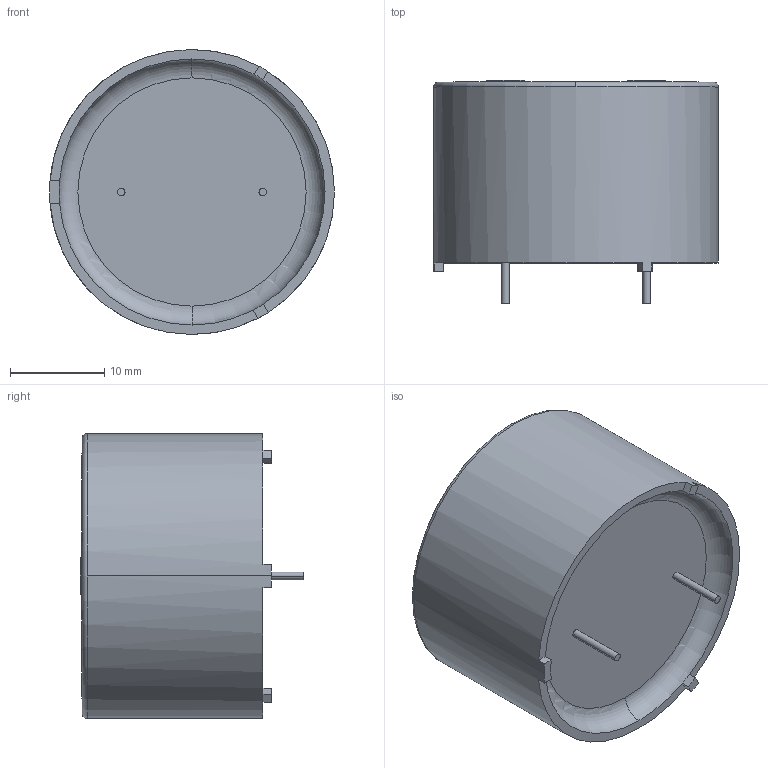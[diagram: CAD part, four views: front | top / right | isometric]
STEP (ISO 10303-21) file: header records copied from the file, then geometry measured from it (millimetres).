
FILE_DESCRIPTION(('STEP AP242'),'1');
FILE_NAME('ai-3035-tt-12v-r.stp','2022-02-22T09:53:46',('TraceParts'),('TraceParts S.A.'),'Spatial InterOp 3D',' ',' ');
FILE_SCHEMA(('AP242_MANAGED_MODEL_BASED_3D_ENGINEERING_MIM_LF {1 0 10303 442 1 1 4}'));
Length unit declared in the file: millimetre
Products named in the file (1): ai-3035-tt-12v-r
Bounding box: 30.2 x 23.65 x 30.2 mm (x, y, z)
Volume: 10500.6 mm3; surface area: 4887.1 mm2
Topology: 1 solids, 1 shells, 58 faces, 143 edges, 94 vertices
Faces by surface type: plane 37, cylinder 17, torus 4
Entity records: 2176 total; most frequent: DIRECTION 318, CARTESIAN_POINT 296, ORIENTED_EDGE 286, EDGE_CURVE 143, AXIS2_PLACEMENT_3D 116, VERTEX_POINT 94, LINE 86, VECTOR 86
